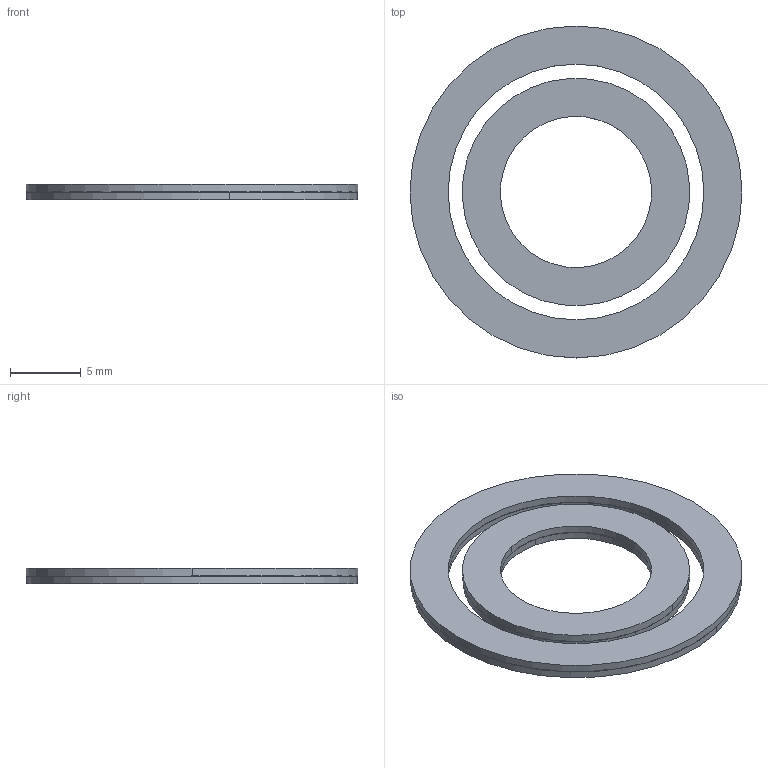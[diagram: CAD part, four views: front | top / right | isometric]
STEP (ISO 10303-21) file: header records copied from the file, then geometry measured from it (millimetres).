
FILE_DESCRIPTION((''),'2;1');
FILE_NAME('EAS-J030FP-AD_V1_0_ASM_5_ASM_1_ASM','2026-09-02T',('guxinfeng'),(''),'PRO/ENGINEER BY PARAMETRIC TECHNOLOGY CORPORATION, 2012480','PRO/ENGINEER BY PARAMETRIC TECHNOLOGY CORPORATION, 2012480','');
FILE_SCHEMA(('CONFIG_CONTROL_DESIGN'));
Length unit declared in the file: millimetre
Products named in the file (12): S1-278_1_1_1; S1-381_1_1_1; S1-484_1_1_1; 0_ASM_1_ASM_1_ASM_1_ASM; PDW_10_7_16_1_1_1_18_ASM_1_ASM__ASM; S1-470_1_1_1; S1-609_1_1_1; S1-712_1_1_1; ASM0446_ASM_1_ASM_1_ASM; P8N_18_1_23_5_1_1_38_ASM_1_ASM__ASM; EAS-J030KP-HD_____ASM_3_ASM_3_A_ASM; EAS-J030FP-AD_V1_0_ASM_5_ASM_1_ASM
Assembly tree (11 placements, depth 5):
  EAS-J030FP-AD_V1_0_ASM_5_ASM_1_ASM
    EAS-J030KP-HD_____ASM_3_ASM_3_A_ASM
      PDW_10_7_16_1_1_1_18_ASM_1_ASM__ASM
        0_ASM_1_ASM_1_ASM_1_ASM
          S1-278_1_1_1
          S1-381_1_1_1
          S1-484_1_1_1
      P8N_18_1_23_5_1_1_38_ASM_1_ASM__ASM
        ASM0446_ASM_1_ASM_1_ASM
          S1-470_1_1_1
          S1-609_1_1_1
          S1-712_1_1_1
Bounding box: 23.5 x 23.5 x 1.1 mm (x, y, z)
Volume: 313.2 mm3; surface area: 1934 mm2
Topology: 6 solids, 6 shells, 36 faces, 72 edges, 48 vertices
Faces by surface type: cylinder 24, plane 12
Entity records: 1625 total; most frequent: DIRECTION 258, CARTESIAN_POINT 189, ORIENTED_EDGE 144, AXIS2_PLACEMENT_3D 117, EDGE_CURVE 72, PRESENTATION_STYLE_ASSIGNMENT 50, STYLED_ITEM 50, VERTEX_POINT 48
